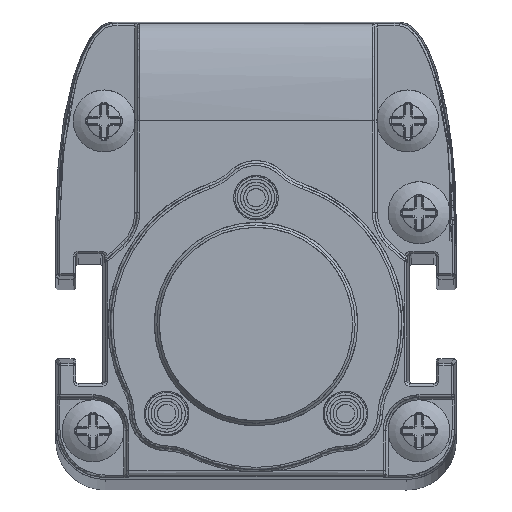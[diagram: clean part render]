
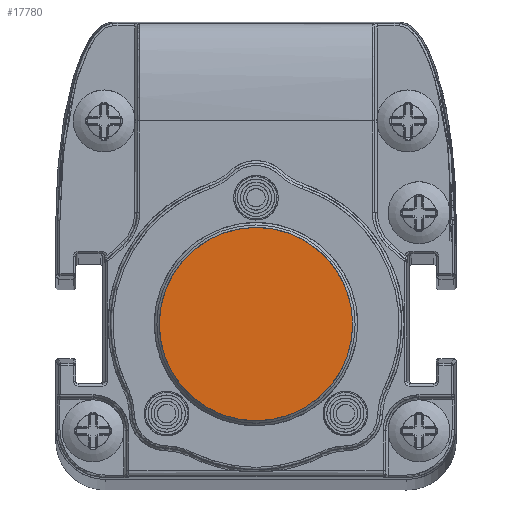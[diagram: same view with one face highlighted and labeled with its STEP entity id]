
A CAD part, top view. The second image highlights one B-rep face of the part: STEP entity #17780.
In plain terms, the highlighted planar face has unit normal (0, 0, 1).
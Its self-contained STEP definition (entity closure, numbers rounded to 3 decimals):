
#15057=B_SPLINE_CURVE_WITH_KNOTS('',3,(#62306,#62307,#62308,#62309,#62310,
#62311,#62312,#62313,#62314,#62315,#62316,#62317,#62318,#62319,#62320,#62321,
#62322,#62323,#62324,#62325,#62326,#62327,#62328,#62329,#62330,#62331,#62332,
#62333,#62334,#62335,#62336,#62337,#62338,#62339,#62340,#62341,#62342,#62343,
#62344,#62345,#62346,#62347,#62348,#62349,#62350,#62351,#62352,#62353,#62354,
#62355,#62356,#62357,#62358,#62359,#62360,#62361,#62362,#62363,#62364,#62365,
#62366,#62367,#62368,#62369,#62370,#62371,#62372,#62373,#62374,#62375,#62376,
#62377,#62378,#62379,#62380,#62381,#62382,#62383,#62384,#62385,#62386,#62387,
#62388,#62389,#62390,#62391,#62392,#62393,#62394,#62395,#62396,#62397,#62398,
#62399,#62400,#62401,#62402,#62403,#62404,#62405,#62406,#62407,#62408),
 .UNSPECIFIED.,.T.,.F.,(1,3,3,3,3,3,3,3,3,3,3,3,3,3,3,3,3,3,3,3,3,3,3,3,
3,3,3,3,3,3,3,3,3,3,3,3,1),(-0.029,0.,0.029,0.059,
0.088,0.118,0.147,0.176,
0.206,0.235,0.265,0.294,
0.324,0.353,0.382,0.412,
0.441,0.471,0.5,0.529,0.559,
0.588,0.618,0.647,0.676,
0.706,0.735,0.765,0.794,
0.824,0.853,0.882,0.912,
0.941,0.971,1.,1.029),.UNSPECIFIED.);
#17780=ADVANCED_FACE('',(#19753),#18676,.T.);
#18676=PLANE('',#42845);
#19753=FACE_OUTER_BOUND('',#21207,.T.);
#21207=EDGE_LOOP('',(#27404));
#27404=ORIENTED_EDGE('',*,*,#36265,.T.);
#31398=VERTEX_POINT('',#62409);
#36265=EDGE_CURVE('',#31398,#31398,#15057,.T.);
#42845=AXIS2_PLACEMENT_3D('',#62410,#46743,#46744);
#46743=DIRECTION('',(0.,0.,1.));
#46744=DIRECTION('',(1.,0.,0.));
#62306=CARTESIAN_POINT('',(7.8,0.,533.34));
#62307=CARTESIAN_POINT('',(7.8,0.465,533.34));
#62308=CARTESIAN_POINT('',(7.759,0.925,533.34));
#62309=CARTESIAN_POINT('',(7.679,1.376,533.34));
#62310=CARTESIAN_POINT('',(7.638,1.601,533.34));
#62311=CARTESIAN_POINT('',(7.588,1.825,533.34));
#62312=CARTESIAN_POINT('',(7.527,2.047,533.34));
#62313=CARTESIAN_POINT('',(7.466,2.269,533.34));
#62314=CARTESIAN_POINT('',(7.407,2.458,533.34));
#62315=CARTESIAN_POINT('',(7.315,2.708,533.34));
#62316=CARTESIAN_POINT('',(7.129,3.209,533.34));
#62317=CARTESIAN_POINT('',(6.898,3.683,533.34));
#62318=CARTESIAN_POINT('',(6.62,4.128,533.34));
#62319=CARTESIAN_POINT('',(6.343,4.573,533.34));
#62320=CARTESIAN_POINT('',(6.043,4.965,533.34));
#62321=CARTESIAN_POINT('',(5.651,5.376,533.34));
#62322=CARTESIAN_POINT('',(4.868,6.2,533.34));
#62323=CARTESIAN_POINT('',(3.912,6.837,533.34));
#62324=CARTESIAN_POINT('',(2.89,7.245,533.34));
#62325=CARTESIAN_POINT('',(2.378,7.449,533.34));
#62326=CARTESIAN_POINT('',(1.856,7.597,533.34));
#62327=CARTESIAN_POINT('',(1.324,7.689,533.34));
#62328=CARTESIAN_POINT('',(1.058,7.734,533.34));
#62329=CARTESIAN_POINT('',(0.79,7.766,533.34));
#62330=CARTESIAN_POINT('',(0.52,7.784,533.34));
#62331=CARTESIAN_POINT('',(0.249,7.801,533.34));
#62332=CARTESIAN_POINT('',(-0.055,7.804,533.34));
#62333=CARTESIAN_POINT('',(-0.3,7.794,533.34));
#62334=CARTESIAN_POINT('',(-0.79,7.775,533.34));
#62335=CARTESIAN_POINT('',(-1.271,7.712,533.34));
#62336=CARTESIAN_POINT('',(-1.742,7.604,533.34));
#62337=CARTESIAN_POINT('',(-2.213,7.496,533.34));
#62338=CARTESIAN_POINT('',(-2.713,7.327,533.34));
#62339=CARTESIAN_POINT('',(-3.123,7.147,533.34));
#62340=CARTESIAN_POINT('',(-3.534,6.968,533.34));
#62341=CARTESIAN_POINT('',(-3.924,6.757,533.34));
#62342=CARTESIAN_POINT('',(-4.293,6.513,533.34));
#62343=CARTESIAN_POINT('',(-4.477,6.392,533.34));
#62344=CARTESIAN_POINT('',(-4.656,6.262,533.34));
#62345=CARTESIAN_POINT('',(-4.83,6.125,533.34));
#62346=CARTESIAN_POINT('',(-5.004,5.987,533.34));
#62347=CARTESIAN_POINT('',(-5.15,5.864,533.34));
#62348=CARTESIAN_POINT('',(-5.337,5.688,533.34));
#62349=CARTESIAN_POINT('',(-5.712,5.337,533.34));
#62350=CARTESIAN_POINT('',(-6.047,4.956,533.34));
#62351=CARTESIAN_POINT('',(-6.341,4.545,533.34));
#62352=CARTESIAN_POINT('',(-6.635,4.134,533.34));
#62353=CARTESIAN_POINT('',(-6.869,3.738,533.34));
#62354=CARTESIAN_POINT('',(-7.102,3.226,533.34));
#62355=CARTESIAN_POINT('',(-7.567,2.203,533.34));
#62356=CARTESIAN_POINT('',(-7.8,1.124,533.34));
#62357=CARTESIAN_POINT('',(-7.8,0.,533.34));
#62358=CARTESIAN_POINT('',(-7.8,-0.562,533.34));
#62359=CARTESIAN_POINT('',(-7.742,-1.113,533.34));
#62360=CARTESIAN_POINT('',(-7.625,-1.651,533.34));
#62361=CARTESIAN_POINT('',(-7.509,-2.189,533.34));
#62362=CARTESIAN_POINT('',(-7.314,-2.758,533.34));
#62363=CARTESIAN_POINT('',(-7.102,-3.226,533.34));
#62364=CARTESIAN_POINT('',(-6.889,-3.694,533.34));
#62365=CARTESIAN_POINT('',(-6.636,-4.134,533.34));
#62366=CARTESIAN_POINT('',(-6.341,-4.544,533.34));
#62367=CARTESIAN_POINT('',(-6.194,-4.75,533.34));
#62368=CARTESIAN_POINT('',(-6.037,-4.947,533.34));
#62369=CARTESIAN_POINT('',(-5.87,-5.138,533.34));
#62370=CARTESIAN_POINT('',(-5.702,-5.329,533.34));
#62371=CARTESIAN_POINT('',(-5.5,-5.535,533.34));
#62372=CARTESIAN_POINT('',(-5.337,-5.688,533.34));
#62373=CARTESIAN_POINT('',(-5.01,-5.995,533.34));
#62374=CARTESIAN_POINT('',(-4.662,-6.27,533.34));
#62375=CARTESIAN_POINT('',(-4.293,-6.513,533.34));
#62376=CARTESIAN_POINT('',(-3.924,-6.756,533.34));
#62377=CARTESIAN_POINT('',(-3.573,-6.951,533.34));
#62378=CARTESIAN_POINT('',(-3.123,-7.147,533.34));
#62379=CARTESIAN_POINT('',(-2.674,-7.344,533.34));
#62380=CARTESIAN_POINT('',(-2.213,-7.496,533.34));
#62381=CARTESIAN_POINT('',(-1.743,-7.604,533.34));
#62382=CARTESIAN_POINT('',(-1.507,-7.658,533.34));
#62383=CARTESIAN_POINT('',(-1.269,-7.701,533.34));
#62384=CARTESIAN_POINT('',(-1.029,-7.732,533.34));
#62385=CARTESIAN_POINT('',(-0.789,-7.764,533.34));
#62386=CARTESIAN_POINT('',(-0.575,-7.784,533.34));
#62387=CARTESIAN_POINT('',(-0.3,-7.794,533.34));
#62388=CARTESIAN_POINT('',(0.801,-7.837,533.34));
#62389=CARTESIAN_POINT('',(1.834,-7.666,533.34));
#62390=CARTESIAN_POINT('',(2.89,-7.245,533.34));
#62391=CARTESIAN_POINT('',(3.417,-7.035,533.34));
#62392=CARTESIAN_POINT('',(3.912,-6.774,533.34));
#62393=CARTESIAN_POINT('',(4.372,-6.462,533.34));
#62394=CARTESIAN_POINT('',(4.833,-6.15,533.34));
#62395=CARTESIAN_POINT('',(5.283,-5.763,533.34));
#62396=CARTESIAN_POINT('',(5.651,-5.376,533.34));
#62397=CARTESIAN_POINT('',(6.019,-4.989,533.34));
#62398=CARTESIAN_POINT('',(6.342,-4.573,533.34));
#62399=CARTESIAN_POINT('',(6.62,-4.128,533.34));
#62400=CARTESIAN_POINT('',(6.759,-3.906,533.34));
#62401=CARTESIAN_POINT('',(6.886,-3.676,533.34));
#62402=CARTESIAN_POINT('',(7.002,-3.44,533.34));
#62403=CARTESIAN_POINT('',(7.117,-3.203,533.34));
#62404=CARTESIAN_POINT('',(7.234,-2.926,533.34));
#62405=CARTESIAN_POINT('',(7.315,-2.708,533.34));
#62406=CARTESIAN_POINT('',(7.638,-1.835,533.34));
#62407=CARTESIAN_POINT('',(7.8,-0.933,533.34));
#62408=CARTESIAN_POINT('',(7.8,0.,533.34));
#62409=CARTESIAN_POINT('',(7.8,0.,533.34));
#62410=CARTESIAN_POINT('',(-8.9,-8.81,533.34));
